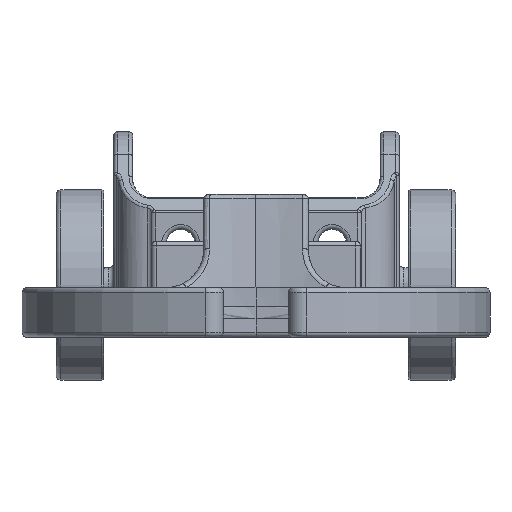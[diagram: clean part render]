
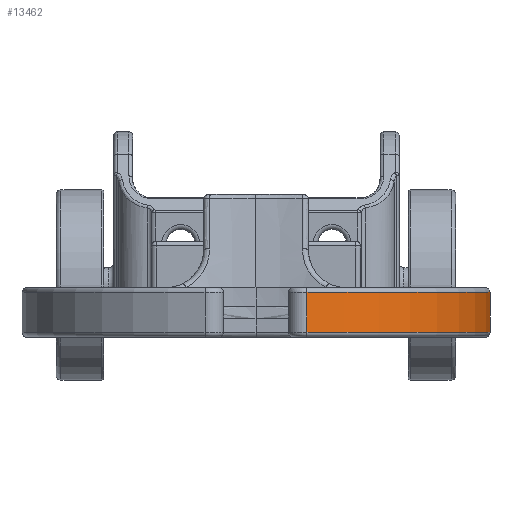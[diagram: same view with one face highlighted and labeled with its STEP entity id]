
A CAD part, front view. The second image highlights one B-rep face of the part: STEP entity #13462.
In plain terms, the highlighted cylindrical face has radius 24.606 mm (diameter 49.212 mm), a partial arc.
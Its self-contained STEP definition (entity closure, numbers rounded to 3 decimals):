
#1450=LINE('',#33800,#2050);
#1451=LINE('',#33804,#2051);
#2050=VECTOR('',#18911,10.);
#2051=VECTOR('',#18916,10.);
#2352=CYLINDRICAL_SURFACE('',#15149,24.606);
#3141=FACE_OUTER_BOUND('',#4064,.T.);
#4064=EDGE_LOOP('',(#11995,#11996,#11997,#11998));
#5044=CIRCLE('',#15037,24.606);
#5119=CIRCLE('',#15150,24.606);
#6212=VERTEX_POINT('',#33048);
#6214=VERTEX_POINT('',#33054);
#6296=VERTEX_POINT('',#33799);
#6297=VERTEX_POINT('',#33803);
#8108=EDGE_CURVE('',#6212,#6214,#5044,.T.);
#8230=EDGE_CURVE('',#6214,#6296,#1450,.T.);
#8232=EDGE_CURVE('',#6212,#6297,#1451,.T.);
#8233=EDGE_CURVE('',#6296,#6297,#5119,.T.);
#11995=ORIENTED_EDGE('',*,*,#8108,.F.);
#11996=ORIENTED_EDGE('',*,*,#8232,.T.);
#11997=ORIENTED_EDGE('',*,*,#8233,.F.);
#11998=ORIENTED_EDGE('',*,*,#8230,.F.);
#13462=ADVANCED_FACE('',(#3141),#2352,.T.);
#15037=AXIS2_PLACEMENT_3D('',#33058,#18664,#18665);
#15149=AXIS2_PLACEMENT_3D('',#33802,#18914,#18915);
#15150=AXIS2_PLACEMENT_3D('',#33805,#18917,#18918);
#18664=DIRECTION('center_axis',(0.,0.,
-1.));
#18665=DIRECTION('ref_axis',(0.772,-0.636,0.));
#18911=DIRECTION('',(0.,0.,1.));
#18914=DIRECTION('center_axis',(0.,0.,-1.));
#18915=DIRECTION('ref_axis',(-1.,0.,0.));
#18916=DIRECTION('',(0.,0.,1.));
#18917=DIRECTION('center_axis',(0.,0.,1.));
#18918=DIRECTION('ref_axis',(0.772,-0.636,0.));
#33048=CARTESIAN_POINT('',(24.597,19.908,-14.98));
#33054=CARTESIAN_POINT('',(5.359,-3.456,-14.98));
#33058=CARTESIAN_POINT('Origin',(0.,20.56,-14.98));
#33799=CARTESIAN_POINT('',(5.359,-3.456,-10.78));
#33800=CARTESIAN_POINT('',(5.359,-3.456,-10.28));
#33802=CARTESIAN_POINT('Origin',(0.,20.56,-10.28));
#33803=CARTESIAN_POINT('',(24.597,19.908,-10.78));
#33804=CARTESIAN_POINT('',(24.597,19.908,-10.28));
#33805=CARTESIAN_POINT('Origin',(0.,20.56,-10.78));
